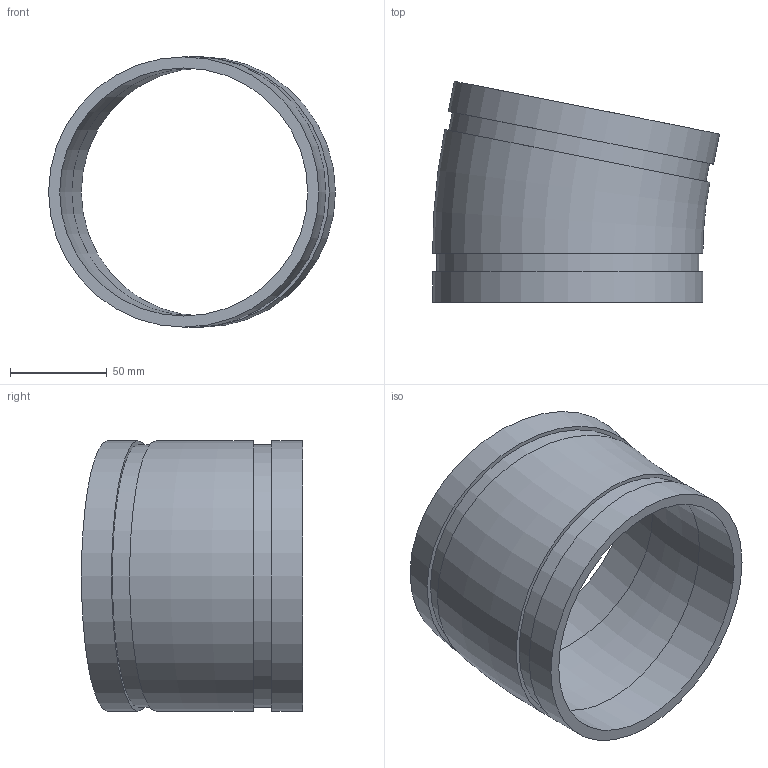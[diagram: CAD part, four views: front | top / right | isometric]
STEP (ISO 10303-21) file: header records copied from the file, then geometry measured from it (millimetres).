
FILE_DESCRIPTION(/* description */ ('VIC 11-1/4 DEG. ELBOW No 13','CAx-IF Rec.Pracs.---Representation and Presentation of Product Manufacturing Information (PMI)---4.0---2014-10-13'),/* implementation_level */ '2;1');
FILE_NAME(/* name */ 'C:\Users\kkamble\AppData\Roaming\Autodesk\ApplicationPlugins\Back Up\Victaulic_IPS_Elbow 11.25 Deg_No 13 (OGS)\Victaulic_IPS_Elbow 11.25 Deg_No 13 (OGS)_5 (139.7) (125).stp',/* time_stamp */ '2020-07-24T08:09:16+06:00',/* author */ ('CONSTRUCTION PIPING SERVICES'),/* organization */ ('Victaulic'),/* preprocessor_version */ 'ST-DEVELOPER v17.2',/* originating_system */ 'Autodesk Inventor 2019',/* authorisation */ '');
FILE_SCHEMA (('AP242_MANAGED_MODEL_BASED_3D_ENGINEERING_MIM_LF { 1 0 10303 442 1 1 4 }'));
Length unit declared in the file: inch
Products named in the file (1): 013-05.0 (139.7)
Bounding box: 148.27 x 114.25 x 139.7 mm (x, y, z)
Volume: 228212.4 mm3; surface area: 93605.1 mm2
Topology: 1 solids, 1 shells, 14 faces, 32 edges, 24 vertices
Faces by surface type: plane 6, cylinder 6, torus 2
Full cylindrical faces by diameter (mm): 128.194 x2, 135.484 x2, 139.7 x2
Entity records: 487 total; most frequent: DIRECTION 88, CARTESIAN_POINT 71, ORIENTED_EDGE 64, AXIS2_PLACEMENT_3D 41, EDGE_CURVE 32, CIRCLE 26, VERTEX_POINT 24, EDGE_LOOP 20
